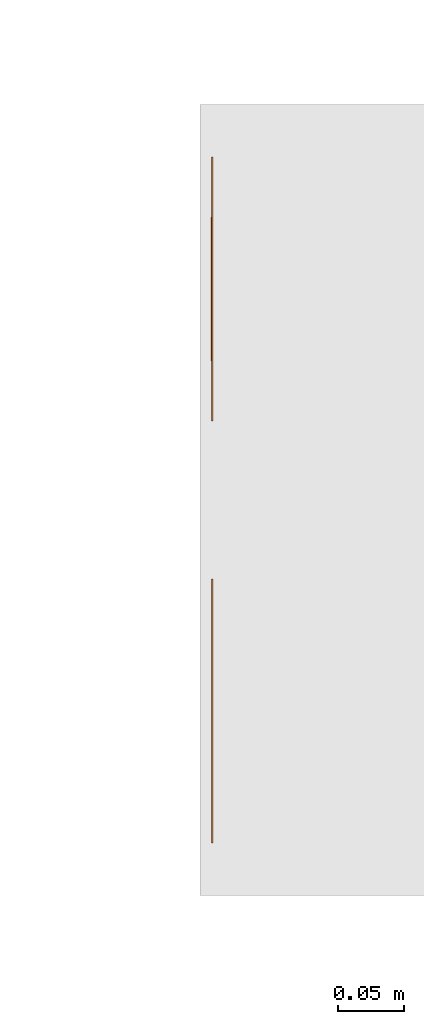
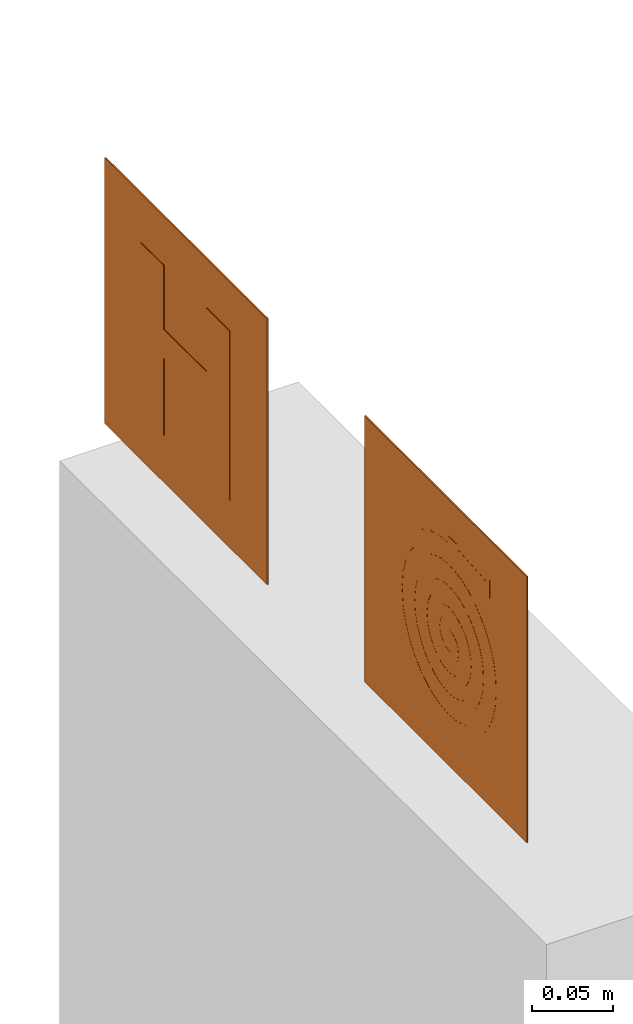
# One storey, part 61 of 119: 2 proxies.
"""IFC2X3 building model written with IfcOpenShell, lengths in metres."""

from ifc_helpers import new_model, entity, si_unit, converted_unit, derived_unit, direction, frame, origin, origin_2d_with_axis, place, context, subcontext, project, spatial, polyline, rectangle, outline, extrude, source, transform, mapped, material, material_list, type_object, type_shapes, element, save


model = new_model("IFC2X3")

# Units and contexts
model_context = context("Model", 3, precision=1e-05, world=origin(), true_north=direction((6.12303176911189e-17, 1.0)))
body_context = subcontext(model_context, "Body", "Model", "MODEL_VIEW")
ifc_project = project(units=[si_unit("LENGTHUNIT", "METRE"), si_unit("AREAUNIT", "SQUARE_METRE"), si_unit("VOLUMEUNIT", "CUBIC_METRE"), converted_unit("PLANEANGLEUNIT", "DEGREE", entity("IfcRatioMeasure", 0.0174532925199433), si_unit("PLANEANGLEUNIT", "RADIAN"), dimensions=[0, 0, 0, 0, 0, 0, 0]), si_unit("MASSUNIT", "GRAM", prefix="KILO"), derived_unit("MASSDENSITYUNIT", [(si_unit("MASSUNIT", "GRAM", prefix="KILO"), 1), (si_unit("LENGTHUNIT", "METRE"), -3)]), derived_unit("MOMENTOFINERTIAUNIT", [(si_unit("LENGTHUNIT", "METRE"), 4)]), si_unit("TIMEUNIT", "SECOND"), si_unit("FREQUENCYUNIT", "HERTZ"), si_unit("THERMODYNAMICTEMPERATUREUNIT", "DEGREE_CELSIUS"), derived_unit("THERMALTRANSMITTANCEUNIT", [(si_unit("MASSUNIT", "GRAM", prefix="KILO"), 1), (si_unit("THERMODYNAMICTEMPERATUREUNIT", "KELVIN"), -1), (si_unit("TIMEUNIT", "SECOND"), -3)]), derived_unit("VOLUMETRICFLOWRATEUNIT", [(si_unit("LENGTHUNIT", "METRE"), 3), (si_unit("TIMEUNIT", "SECOND"), -1)]), si_unit("ELECTRICCURRENTUNIT", "AMPERE"), si_unit("ELECTRICVOLTAGEUNIT", "VOLT"), si_unit("POWERUNIT", "WATT"), si_unit("FORCEUNIT", "NEWTON", prefix="KILO"), si_unit("ILLUMINANCEUNIT", "LUX"), si_unit("LUMINOUSFLUXUNIT", "LUMEN"), si_unit("LUMINOUSINTENSITYUNIT", "CANDELA"), derived_unit("USERDEFINED", [(si_unit("MASSUNIT", "GRAM", prefix="KILO"), -1), (si_unit("LENGTHUNIT", "METRE"), -2), (si_unit("TIMEUNIT", "SECOND"), 3), (si_unit("LUMINOUSFLUXUNIT", "LUMEN"), 1)]), derived_unit("LINEARVELOCITYUNIT", [(si_unit("LENGTHUNIT", "METRE"), 1), (si_unit("TIMEUNIT", "SECOND"), -1)]), si_unit("PRESSUREUNIT", "PASCAL"), derived_unit("USERDEFINED", [(si_unit("LENGTHUNIT", "METRE"), -2), (si_unit("MASSUNIT", "GRAM", prefix="KILO"), 1), (si_unit("TIMEUNIT", "SECOND"), -2)]), derived_unit("LINEARFORCEUNIT", [(si_unit("MASSUNIT", "GRAM", prefix="KILO"), 1), (si_unit("LENGTHUNIT", "METRE"), 1), (si_unit("TIMEUNIT", "SECOND"), -2), (si_unit("LENGTHUNIT", "METRE"), -1)]), derived_unit("PLANARFORCEUNIT", [(si_unit("MASSUNIT", "GRAM", prefix="KILO"), 1), (si_unit("LENGTHUNIT", "METRE"), 1), (si_unit("TIMEUNIT", "SECOND"), -2), (si_unit("LENGTHUNIT", "METRE"), -2)])], contexts=[model_context])

# Site, building, storey
site_placement = place(None, origin())
site = spatial("IfcSite", under=ifc_project, at=site_placement, Name="Default", CompositionType="ELEMENT")
building_placement = place(site_placement, origin())
building = spatial("IfcBuilding", under=site, at=building_placement, CompositionType="ELEMENT")
storey_placement = place(building_placement, origin())
storey = spatial("IfcBuildingStorey", under=building, at=storey_placement, Name="PAV. 01 - TÉRREO", CompositionType="ELEMENT", Elevation=0.0)

# Proxies
ifc_material_1 = material(Name="Plastico branco")
ifc_material_2 = material(Name="Plastico vermelho")
ifc_material_list_1 = material_list([ifc_material_1, ifc_material_2])
building_element_proxy_type_1 = type_object("IfcBuildingElementProxyType", Name="Sinalização de equipamentos - E08 - Hidrante de incêndio:Distância 08m", PredefinedType="NOTDEFINED", material=ifc_material_1)
shared_shape_1 = source(origin(), body_context, "Body", "SweptSolid", [
    extrude(outline(polyline([(-0.0621646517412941, -0.0264425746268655), (-0.0621646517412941, -0.0546283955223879), (0.0655131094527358, -0.0546283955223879), (0.0655131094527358, -0.0264425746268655), (0.00753848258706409, -0.0264425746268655), (0.00753848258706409, 0.0264425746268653), (0.0655131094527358, 0.0264425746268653), (0.0655131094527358, 0.0546283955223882), (-0.0621646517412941, 0.0546283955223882), (-0.0621646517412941, 0.0264425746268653), (-0.0142353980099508, 0.0264425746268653), (-0.0142353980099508, -0.0264425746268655), (-0.0621646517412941, -0.0264425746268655)])), frame((0.0, -0.0015, 1.90139370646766), z_axis=(0.0, -1.0, 0.0), x_axis=(0.0, 0.0, -1.0)), (0.0, 0.0, -1.0), 0.0015),
    extrude(rectangle(XDim=0.001, YDim=0.179, at=origin_2d_with_axis()), frame((0.0, -0.0005, 1.8105), z_axis=(0.0, 0.0, 1.0), x_axis=(0.0, 1.0, 0.0)), (0.0, 0.0, 1.0), 0.179),
    extrude(outline(polyline([(-0.100000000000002, -0.1), (0.100000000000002, -0.1), (0.100000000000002, 0.1), (-0.100000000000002, 0.1), (-0.100000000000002, -0.1)]), holes=[polyline([(-0.0895000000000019, -0.0895000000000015), (-0.0895000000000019, 0.0894999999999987), (0.0894999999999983, 0.0894999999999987), (0.0894999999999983, -0.0895000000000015), (-0.0895000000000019, -0.0895000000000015)])]), frame((0.0, -0.001, 1.9), z_axis=(0.0, 1.0, 0.0), x_axis=(0.0, 0.0, -1.0)), (0.0, 0.0, 1.0), 0.001),
])
type_shapes(building_element_proxy_type_1, [shared_shape_1])
proxy_1_placement = place(storey_placement, frame((48.3240605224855, 11.3433819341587, 0.0), z_axis=(0.0, 0.0, 1.0), x_axis=(0.0, -1.0, 0.0)))
element("IfcBuildingElementProxy", 1, at=proxy_1_placement, inside=storey, type_object=building_element_proxy_type_1, material=ifc_material_list_1, Name="Sinalização de equipamentos - E08 - Hidrante de incêndio:Distância 08m", ObjectType="Sinalização de equipamentos - E08 - Hidrante de incêndio:Distância 08m", context=body_context, shape_type="MappedRepresentation", body=[
    mapped(shared_shape_1, transform((0.0, 0.0, 0.0), scale=1.0)),
])
ifc_material_list_2 = material_list([ifc_material_1, ifc_material_2])
building_element_proxy_type_2 = type_object("IfcBuildingElementProxyType", Name="Sinalização de equipamentos - E07 - Abrigo de mangueira e hidrante:Distância 08m", PredefinedType="NOTDEFINED", material=ifc_material_1)
shared_shape_2 = source(origin(), body_context, "Body", "SweptSolid", [
    extrude(outline(polyline([(-0.00690786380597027, -0.0122995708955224), (0.00711825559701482, -0.0122995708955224), (0.00711825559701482, -0.00743718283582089), (0.00262989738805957, -0.00743718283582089), (0.00596944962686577, 0.0271739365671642), (-0.00581249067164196, 0.0271739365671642), (-0.00320763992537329, -0.00743718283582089), (-0.00690786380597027, -0.00743718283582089), (-0.00690786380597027, -0.0122995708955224)])), frame((0.0421885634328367, -0.0011, 1.96326280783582), z_axis=(0.0, 1.0, 0.0), x_axis=(0.0, 0.0, -1.0)), (0.0, 0.0, 1.0), 0.0011),
    extrude(outline(polyline([(-0.0100749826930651, 0.0564373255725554), (0.000130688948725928, 0.0564373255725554), (0.000130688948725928, 0.0615935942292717), (0.0111390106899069, 0.0603672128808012), (0.0215236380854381, 0.0569157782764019), (0.0310659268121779, 0.0514698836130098), (0.039547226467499, 0.044260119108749), (0.0467232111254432, 0.0355044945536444), (0.0522652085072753, 0.0253796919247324), (0.0558272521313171, 0.0140539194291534), (0.0570633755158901, 0.00169538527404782), (0.0559544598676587, -0.0103529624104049), (0.0527167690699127, -0.021677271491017), (0.0475402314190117, -0.0320063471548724), (0.0406147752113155, -0.0410689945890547), (0.0321303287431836, -0.0485940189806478), (0.0222768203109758, -0.054310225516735), (0.0112441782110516, -0.0579464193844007), (-0.000777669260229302, -0.0592314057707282), (-0.0112144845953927, -0.0581339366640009), (-0.0207847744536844, -0.0549992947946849), (-0.0293267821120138, -0.0500696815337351), (-0.0366787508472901, -0.0435872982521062), (-0.0426789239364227, -0.0357943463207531), (-0.0471655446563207, -0.0269330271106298), (-0.0499768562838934, -0.0172455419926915), (-0.0509511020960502, -0.00697409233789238), (-0.0503267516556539, 0.00214397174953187), (-0.0485509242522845, 0.0101046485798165), (-0.0457766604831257, 0.0170464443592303), (-0.042157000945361, 0.0231078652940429), (-0.0378449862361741, 0.0284274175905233), (-0.0329915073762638, 0.0331411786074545), (-0.0276526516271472, 0.0372781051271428), (-0.0217544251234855, 0.0407201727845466), (-0.0152134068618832, 0.0433387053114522), (-0.00794617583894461, 0.0450050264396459), (0.000130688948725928, 0.0455904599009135), (0.0081536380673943, 0.04465447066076), (0.0157133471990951, 0.0420982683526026), (0.0226512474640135, 0.0380908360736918), (0.0288087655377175, 0.0328011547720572), (0.034008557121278, 0.0263891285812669), (0.0380116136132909, 0.0189848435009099), (0.0405662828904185, 0.0107122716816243), (0.041420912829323, 0.00169538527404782), (0.0406481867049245, -0.00714065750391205), (0.0383124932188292, -0.015453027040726), (0.0345521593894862, -0.0230422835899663), (0.0295055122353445, -0.0297089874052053), (0.023310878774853, -0.0352536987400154), (0.0161065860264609, -0.0394769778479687), (0.0080309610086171, -0.0421793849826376), (-0.000777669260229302, -0.043161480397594), (-0.00799025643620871, -0.0423890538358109), (-0.014601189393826, -0.0402096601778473), (-0.0204989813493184, -0.0367909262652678), (-0.0255721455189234, -0.0323004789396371), (-0.0297091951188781, -0.0269059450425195), (-0.03279864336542, -0.0207749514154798), (-0.0347290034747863, -0.0140751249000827), (-0.0353887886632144, -0.00697409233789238), (-0.0349404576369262, -0.000650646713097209), (-0.0336953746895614, 0.00486808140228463), (-0.0317594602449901, 0.00967841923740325), (-0.0292386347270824, 0.0138766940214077), (-0.0262388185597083, 0.0175592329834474), (-0.0228644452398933, 0.0208206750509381), (-0.0191543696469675, 0.02368119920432), (-0.015057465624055, 0.0260588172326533), (-0.0105160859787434, 0.02786413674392), (-0.00547258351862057, 0.0290077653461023), (0.000130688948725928, 0.0294003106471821), (0.00520279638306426, 0.0288165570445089), (0.00998368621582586, 0.027208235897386), (0.0143729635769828, 0.0246820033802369), (0.018270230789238, 0.0213445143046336), (0.0215632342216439, 0.0172966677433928), (0.0241007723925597, 0.012620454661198), (0.02572365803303, 0.00739398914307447), (0.0262727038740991, 0.00169538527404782), (0.0257957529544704, -0.0039920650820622), (0.0243118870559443, -0.00934613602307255), (0.0219096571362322, -0.0142381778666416), (0.0186776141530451, -0.0185395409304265), (0.0147043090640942, -0.0221215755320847), (0.0100782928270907, -0.0248556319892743), (0.00488811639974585, -0.0266130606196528), (-0.000777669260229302, -0.0272652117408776), (-0.00480591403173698, -0.0268185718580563), (-0.00849506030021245, -0.0255870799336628), (-0.011783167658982, -0.0236646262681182), (-0.014608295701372, -0.0211451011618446), (-0.0169085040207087, -0.0181223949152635), (-0.0186218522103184, -0.0146903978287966), (-0.0196863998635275, -0.0109430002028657), (-0.0200402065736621, -0.00697409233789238), (-0.0197070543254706, -0.00307612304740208), (-0.0188559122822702, 0.000297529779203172), (-0.0175578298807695, 0.00320533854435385), (-0.0158838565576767, 0.00570577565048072), (-0.0139050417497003, 0.00785731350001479), (-0.0116800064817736, 0.00970541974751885), (-0.00919827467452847, 0.0112232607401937), (-0.00642549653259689, 0.0123590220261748), (-0.00332729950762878, 0.013060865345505), (0.000130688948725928, 0.013276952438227), (0.00313917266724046, 0.0124353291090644), (0.00564156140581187, 0.0111582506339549), (0.00763785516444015, 0.00944571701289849), (0.0091280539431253, 0.00729772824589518), (0.0101121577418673, 0.00471428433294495), (0.0105901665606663, 0.00169538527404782), (0.0104396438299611, -0.00075805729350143), (0.00985235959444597, -0.00307766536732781), (0.0088652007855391, -0.00520719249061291), (0.00751505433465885, -0.00709039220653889), (0.00583880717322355, -0.00867101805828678), (0.00387334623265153, -0.00989282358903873), (0.00165555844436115, -0.0106995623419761), (-0.000777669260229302, -0.0110349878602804), (-0.00167408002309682, -0.0108859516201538), (-0.00245613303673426, -0.0105863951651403), (-0.00312066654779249, -0.0101578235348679), (-0.00366451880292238, -0.00962174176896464), (-0.00408452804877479, -0.00899965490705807), (-0.00437753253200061, -0.00831306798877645), (-0.00454037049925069, -0.00758348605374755), (-0.00456988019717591, -0.00683241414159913), (-0.00446289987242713, -0.00608135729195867), (-0.00421626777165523, -0.00535182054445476), (-0.00382682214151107, -0.00466530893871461), (-0.00329140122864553, -0.00404332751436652), (-0.00260684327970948, -0.00350738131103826), (-0.00176998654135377, -0.00307897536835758), (-0.000777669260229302, -0.00277961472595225), (-0.000777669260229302, 0.00518187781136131), (-0.00423070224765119, 0.0045419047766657), (-0.00707907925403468, 0.00334752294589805), (-0.00932280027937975, 0.00159873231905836), (-0.0109618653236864, -0.00070446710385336), (-0.0119962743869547, -0.00356207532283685), (-0.0124260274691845, -0.00697409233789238), (-0.012188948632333, -0.00934499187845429), (-0.0115283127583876, -0.0115788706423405), (-0.0104817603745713, -0.0136199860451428), (-0.00908693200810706, -0.0154125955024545), (-0.00738146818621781, -0.0169009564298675), (-0.00540300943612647, -0.018029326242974), (-0.003189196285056, -0.018741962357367), (-0.000777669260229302, -0.0189831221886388), (0.00328262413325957, -0.0185300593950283), (0.00700496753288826, -0.0172840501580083), (0.0103256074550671, -0.0153370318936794), (0.0131807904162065, -0.0127809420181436), (0.0155067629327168, -0.00970771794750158), (0.0172397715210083, -0.00620929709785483), (0.0183160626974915, -0.00237761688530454), (0.0186718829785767, 0.00169538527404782), (0.0182922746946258, 0.00574957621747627), (0.0171479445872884, 0.00946273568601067), (0.0153522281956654, 0.0127723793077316), (0.0130184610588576, 0.0156160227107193), (0.0102540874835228, 0.0179361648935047), (0.00713791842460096, 0.0196995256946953), (0.0037400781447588, 0.0208801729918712), (0.000130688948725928, 0.021452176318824), (-0.004291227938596, 0.0211836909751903), (-0.00827718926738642, 0.0203187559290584), (-0.0118720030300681, 0.0189282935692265), (-0.0151204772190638, 0.0170832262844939), (-0.0180674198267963, 0.014854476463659), (-0.0207525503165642, 0.012307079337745), (-0.0231453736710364, 0.00942483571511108), (-0.0251642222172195, 0.00613234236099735), (-0.0267262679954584, 0.00235285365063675), (-0.027748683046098, -0.00199037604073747), (-0.028148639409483, -0.00697409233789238), (-0.0275827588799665, -0.0125340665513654), (-0.0260239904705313, -0.0177709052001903), (-0.0235608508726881, -0.0225540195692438), (-0.0202818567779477, -0.026752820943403), (-0.0162755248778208, -0.0302367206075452), (-0.0116303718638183, -0.0328751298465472), (-0.00643491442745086, -0.0345374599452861), (-0.000777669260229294, -0.0350931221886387), (0.00649225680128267, -0.0343265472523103), (0.0131661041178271, -0.0321374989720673), (0.0191288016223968, -0.028689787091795), (0.0242652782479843, -0.0241472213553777), (0.0284604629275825, -0.0186736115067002), (0.031599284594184, -0.0124327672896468), (0.0335666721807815, -0.00558849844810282), (0.0342475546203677, 0.00169538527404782), (0.0334944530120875, 0.00908531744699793), (0.0313514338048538, 0.0158549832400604), (0.0280255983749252, 0.0219041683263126), (0.0237240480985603, 0.0271326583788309), (0.0186435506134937, 0.0314351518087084), (0.0129304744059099, 0.0346815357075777), (0.00671584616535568, 0.0367341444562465), (0.00013068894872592, 0.0374553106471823), (-0.00671911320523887, 0.0369809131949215), (-0.012885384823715, 0.0355878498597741), (-0.0184385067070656, 0.0333854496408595), (-0.0234488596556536, 0.030483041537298), (-0.0279868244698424, 0.0269899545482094), (-0.0321148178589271, 0.0230064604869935), (-0.0357853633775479, 0.0185078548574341), (-0.038870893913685, 0.0133783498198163), (-0.0412420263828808, 0.00750009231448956), (-0.0427693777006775, 0.000755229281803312), (-0.0433235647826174, -0.00697409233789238), (-0.0424899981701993, -0.0156746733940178), (-0.0401006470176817, -0.0238790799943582), (-0.0362927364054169, -0.0313822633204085), (-0.0312034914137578, -0.0379791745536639), (-0.0249701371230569, -0.0434647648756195), (-0.0177298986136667, -0.0476339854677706), (-0.00962000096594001, -0.0502817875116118), (-0.000777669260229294, -0.0512031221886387), (0.00967260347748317, -0.0500981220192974), (0.0192654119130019, -0.046948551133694), (0.0278354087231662, -0.0419899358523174), (0.0352172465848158, -0.0354578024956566), (0.0412455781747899, -0.0275876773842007), (0.045755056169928, -0.0186150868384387), (0.0485803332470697, -0.0087755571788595), (0.0495560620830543, 0.00169538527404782), (0.0484795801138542, 0.0124199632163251), (0.0453849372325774, 0.0222475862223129), (0.0405724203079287, 0.0310323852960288), (0.0343423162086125, 0.0386284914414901), (0.0269799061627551, 0.0448826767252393), (0.0186972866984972, 0.0496058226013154), (0.00968427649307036, 0.052597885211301), (0.000130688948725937, 0.0536588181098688), (-0.00918927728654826, 0.0529865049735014), (-0.0175754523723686, 0.0510666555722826), (-0.0251240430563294, 0.0480477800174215), (-0.0319312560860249, 0.0440783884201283), (-0.0380932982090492, 0.0393069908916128), (-0.0436955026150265, 0.0338698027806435), (-0.048673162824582, 0.0277333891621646), (-0.0528522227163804, 0.0207406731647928), (-0.0560561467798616, 0.012731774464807), (-0.0581083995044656, 0.00354681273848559), (-0.0588324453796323, -0.00697409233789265), (-0.0577069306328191, -0.018861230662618), (-0.0544553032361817, -0.0300729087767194), (-0.0492647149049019, -0.0403288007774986), (-0.0423223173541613, -0.0493485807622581), (-0.033815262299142, -0.0568519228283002), (-0.0239307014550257, -0.0625585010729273), (-0.0128557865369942, -0.0661879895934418), (-0.000777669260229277, -0.0674600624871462), (0.0128900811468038, -0.0660204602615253), (0.0254375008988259, -0.0619064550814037), (0.0366482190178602, -0.0554259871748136), (0.0463058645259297, -0.0468869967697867), (0.0541940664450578, -0.0365974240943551), (0.0600964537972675, -0.0248652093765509), (0.063796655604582, -0.0119982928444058), (0.0650783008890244, 0.00169538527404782), (0.0636910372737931, 0.015779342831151), (0.0597178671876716, 0.0287040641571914), (0.0534946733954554, 0.040257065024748), (0.0453573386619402, 0.0502258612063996), (0.0356383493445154, 0.0583943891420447), (0.0246536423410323, 0.0645291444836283), (0.0127141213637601, 0.0683913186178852), (0.000130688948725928, 0.0697421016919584), (0.000130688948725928, 0.074791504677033), (-0.0100749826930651, 0.074791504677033), (-0.0100749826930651, 0.0564373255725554)])), frame((0.00353703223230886, -0.00109999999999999, 1.89754319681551), z_axis=(0.0, 1.0, 0.0), x_axis=(-1.0, 0.0, 0.0)), (0.0, 0.0, 1.0), 0.0011),
    extrude(rectangle(XDim=0.001, YDim=0.179, at=origin_2d_with_axis()), frame((0.0, -0.0005, 1.8105), z_axis=(0.0, 0.0, 1.0), x_axis=(0.0, 1.0, 0.0)), (0.0, 0.0, 1.0), 0.179000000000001),
    extrude(outline(polyline([(-0.100000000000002, -0.1), (0.100000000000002, -0.1), (0.100000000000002, 0.1), (-0.100000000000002, 0.1), (-0.100000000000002, -0.1)]), holes=[polyline([(-0.0895000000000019, -0.0895000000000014), (-0.0895000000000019, 0.0894999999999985), (0.0894999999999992, 0.0894999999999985), (0.0894999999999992, -0.0895000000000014), (-0.0895000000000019, -0.0895000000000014)])]), frame((0.0, -0.001, 1.9), z_axis=(0.0, 1.0, 0.0), x_axis=(0.0, 0.0, -1.0)), (0.0, 0.0, 1.0), 0.001),
])
type_shapes(building_element_proxy_type_2, [shared_shape_2])
proxy_2_placement = place(storey_placement, frame((48.3240605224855, 11.0233819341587, 0.0), z_axis=(0.0, 0.0, 1.0), x_axis=(0.0, -1.0, 0.0)))
element("IfcBuildingElementProxy", 2, at=proxy_2_placement, inside=storey, type_object=building_element_proxy_type_2, material=ifc_material_list_2, Name="Sinalização de equipamentos - E07 - Abrigo de mangueira e hidrante:Distância 08m", ObjectType="Sinalização de equipamentos - E07 - Abrigo de mangueira e hidrante:Distância 08m", context=body_context, shape_type="MappedRepresentation", body=[
    mapped(shared_shape_2, transform((0.0, 0.0, 0.0), scale=1.0)),
])

save(model, "model.ifc")
